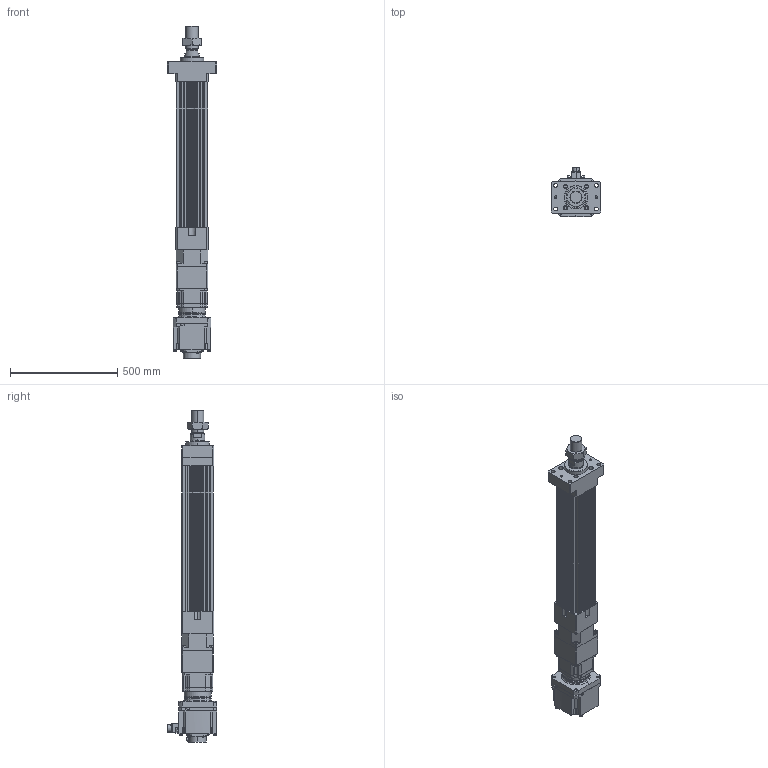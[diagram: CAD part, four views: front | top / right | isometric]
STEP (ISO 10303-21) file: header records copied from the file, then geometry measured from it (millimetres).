
FILE_DESCRIPTION (( 'STEP AP203' ), '1' );
FILE_NAME ('HES150NS(HS)-S400-W035G00-M-FM.STEP', '2023-02-01T04:39:13', ( 'tms' ), ( '' ), 'SwSTEP 2.0', 'SolidWorks 2013', '' );
FILE_SCHEMA (( 'CONFIG_CONTROL_DESIGN' ));
Length unit declared in the file: millimetre
Products named in the file (9): P1301500001; P0403500801; HES150NS(HS)-S400-W035G00-M-FM; M56X2.0P; AB142-003[HG-SR352]; HES150 ROD M ST400; HES150-S400-G142-FM; HG-SR352; AB1421
Assembly tree (8 placements, depth 3):
  HES150NS(HS)-S400-W035G00-M-FM
    HES150-S400-G142-FM
    HES150 ROD M ST400
    M56X2.0P
    AB142-003[HG-SR352]
      AB1421
      P1301500001
      P0403500801
    HG-SR352
Bounding box: 230 x 228.85 x 1547.5 mm (x, y, z)
Volume: 17771300.1 mm3; surface area: 1906300.1 mm2
Topology: 5 solids, 23 shells, 1508 faces, 3908 edges, 2538 vertices
Faces by surface type: cylinder 687, plane 587, cone 152, bspline 76, torus 6
Entity records: 55082 total; most frequent: CARTESIAN_POINT 16753, DIRECTION 8014, ORIENTED_EDGE 7718, EDGE_CURVE 3881, AXIS2_PLACEMENT_3D 3024, VERTEX_POINT 2538, VECTOR 1966, LINE 1966
